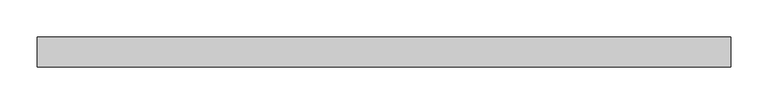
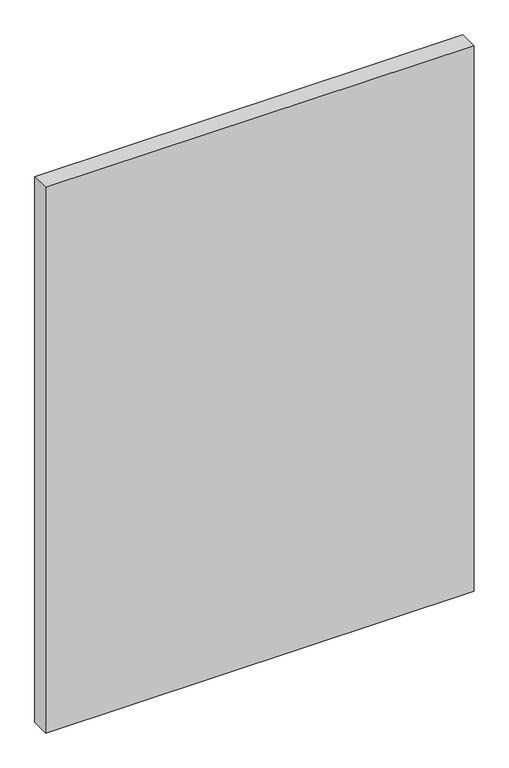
"""IFC4 building model written with IfcOpenShell, lengths in millimetres: plate geometry, Vitré."""

from ifc_helpers import new_model, si_unit, origin, origin_with_axes, place, context, project, spatial, polyline, outline, extrude, source, transform, mapped, element, save


def plate_fdc32ee8(model_context):
    return source(origin(), model_context, "Body", "SweptSolid", [
        extrude(outline(polyline([(-462.5000002, -20.0), (-462.5000002, 20.0), (462.5000002, 20.0), (462.5000002, -20.0), (-462.5000002, -20.0)])), origin_with_axes(), (0.0, 0.0, 1.0), 1244.9697414),
    ])


if __name__ == "__main__":
    model = new_model("IFC4")
    model_context = context("Model", 3, world=origin())
    ifc_project = project(units=[si_unit("LENGTHUNIT", "METRE", prefix="MILLI")], contexts=[model_context])
    site = spatial("IfcSite", under=ifc_project)
    building = spatial("IfcBuilding", under=site)
    placement = place(None, origin())
    plate_shape = plate_fdc32ee8(model_context)
    element("IfcPlate", 1, ObjectType="Vitré", at=placement, inside=building, context=model_context, shape_type="MappedRepresentation", body=[
        mapped(plate_shape, transform((0.0, 0.0, 0.0), x_axis=(1.0, 0.0, 0.0), y_axis=(0.0, 1.0, 0.0), z_axis=(0.0, 0.0, 1.0))),
    ])
    save(model, "model.ifc")
